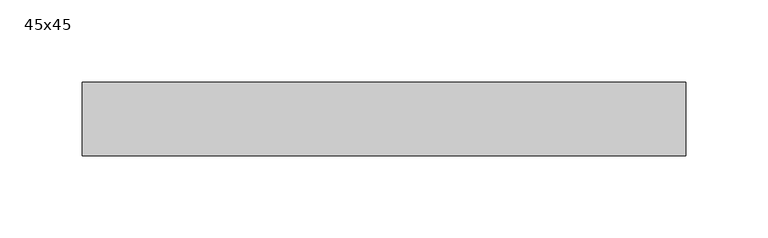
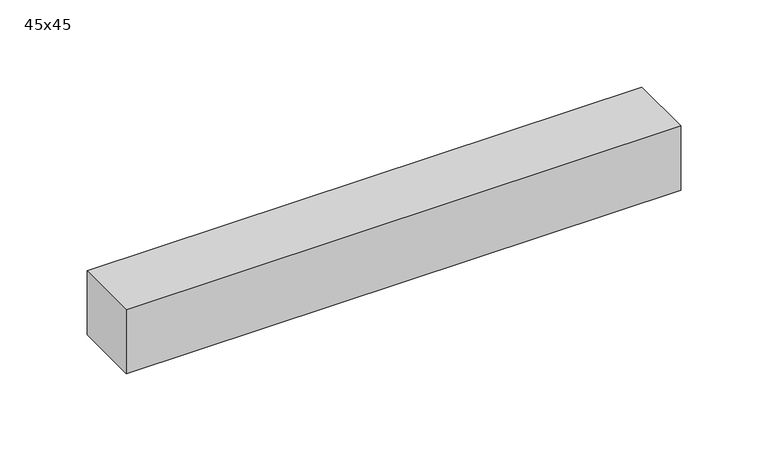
"""IFC4 building model written with IfcOpenShell, lengths in millimetres: beam geometry, Poutre - Bois d'oeuvre : 45x45."""

from ifc_helpers import new_model, si_unit, frame, origin, place, context, project, spatial, polyline, outline, extrude, source, transform, mapped, element, save


def beam_45x45_cf2d80d3(model_context):
    return source(origin(), model_context, "Body", "SweptSolid", [
        extrude(outline(polyline([(184.0, 22.5), (184.0, -22.5), (-184.0, -22.5), (-184.0, 22.5), (184.0, 22.5)])), frame((0.0, 0.0, -22.5), z_axis=(0.0, 0.0, 1.0), x_axis=(1.0, 0.0, 0.0)), (0.0, 0.0, 1.0), 45.0),
    ])


if __name__ == "__main__":
    model = new_model("IFC4")
    model_context = context("Model", 3, world=origin())
    ifc_project = project(units=[si_unit("LENGTHUNIT", "METRE", prefix="MILLI")], contexts=[model_context])
    site = spatial("IfcSite", under=ifc_project)
    building = spatial("IfcBuilding", under=site)
    placement = place(None, origin())
    beam_45x45_shape = beam_45x45_cf2d80d3(model_context)
    element("IfcBeam", 1, ObjectType="Poutre - Bois d'oeuvre : 45x45", at=placement, inside=building, context=model_context, shape_type="MappedRepresentation", body=[
        mapped(beam_45x45_shape, transform((0.0, 0.0, 0.0), x_axis=(1.0, 0.0, 0.0), y_axis=(0.0, 1.0, 0.0), z_axis=(0.0, 0.0, 1.0))),
    ])
    save(model, "model.ifc")
